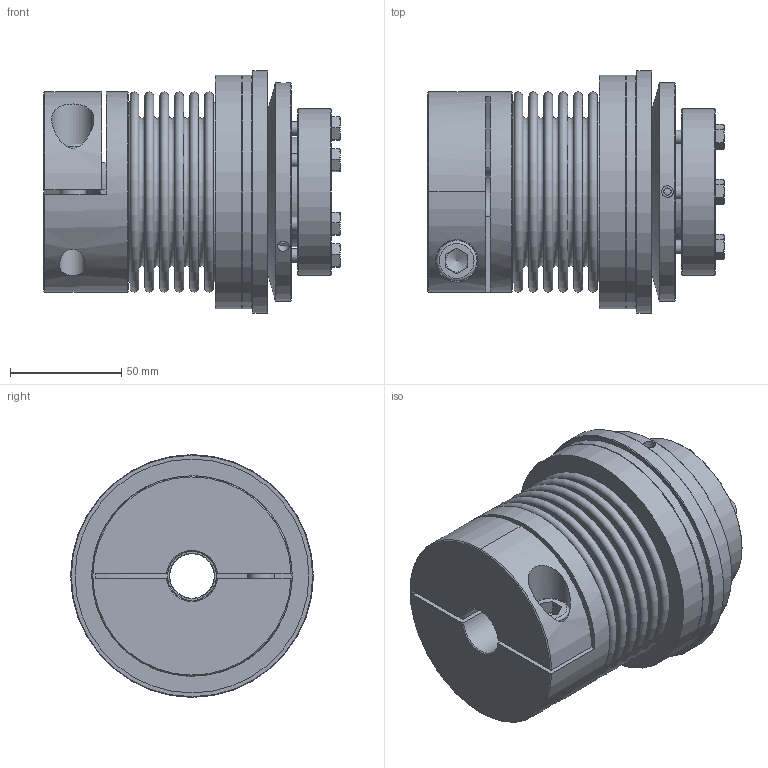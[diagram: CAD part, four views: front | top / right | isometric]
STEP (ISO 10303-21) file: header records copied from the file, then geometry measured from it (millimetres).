
FILE_DESCRIPTION( ( 'Unknown' ), '1' );
FILE_NAME( 'C:/Users/skarpstein/Desktop/Korrigierte 3D Modelle/KBK-B-KA/KBK-BKA-200-135.stp', 'Unknown', ( 'Unknown' ), ( 'Unknown' ), 'PSStep 16.0.42', 'Unknown', ' ' );
FILE_SCHEMA( ( 'AUTOMOTIVE_DESIGN { 1 0 10303 214 1 1 1 1 }' ) );
Length unit declared in the file: millimetre
Products named in the file (10): Assem1; Stellring 200; Druckring 200; Flansch BK200; KN200_Standard_2; Socket Head Cap Screw_DIN_DIN 912 M12 x 35 --- 35N_2; KBK L-A-200 Grundkörper; Druckring L-A-200; din_en_24017_m6x25_0_0; BL200_Standard_0
Assembly tree (14 placements, depth 2):
  Assem1
    Stellring 200
    Druckring 200
    Flansch BK200
    KN200_Standard_2
    Socket Head Cap Screw_DIN_DIN 912 M12 x 35 --- 35N_2
    KBK L-A-200 Grundkörper
    Druckring L-A-200
    din_en_24017_m6x25_0_0  x6
    BL200_Standard_0
Bounding box: 133.15 x 109 x 109 mm (x, y, z)
Volume: 579310.3 mm3; surface area: 218106.6 mm2
Topology: 14 solids, 14 shells, 341 faces, 707 edges, 454 vertices
Faces by surface type: plane 161, cone 80, cylinder 65, torus 35
Full cylindrical faces by diameter (mm): 3.242 x3, 4.917 x6, 5.2 x6, 6 x6, 6.6 x6, 8.8 x6, 12 x2, 12.5 x1, 18 x1, 19 x1, 20 x1, 22 x1, 47 x1, 49.29 x1, 50 x2, 60 x1, 62 x1, 65 x1, 66 x2, 75 x1, 77 x1, 79.2 x2, 80.4 x2, 90 x2, 98 x1, 105 x2, 109 x1
Entity records: 7995 total; most frequent: CARTESIAN_POINT 1484, DIRECTION 1011, ORIENTED_EDGE 668, AXIS2_PLACEMENT_3D 468, EDGE_LOOP 416, EDGE_CURVE 334, FACE_OUTER_BOUND 310, VERTEX_POINT 287
